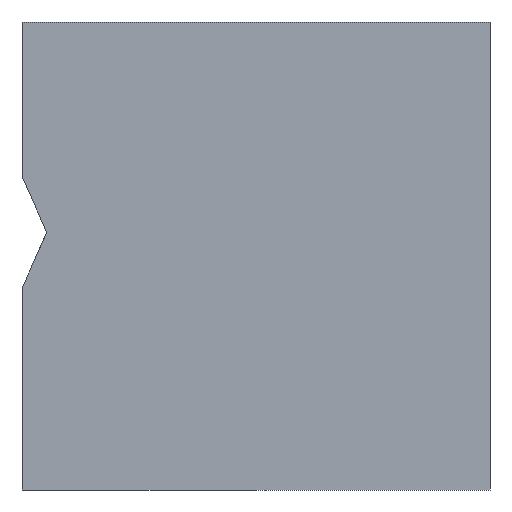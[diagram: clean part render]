
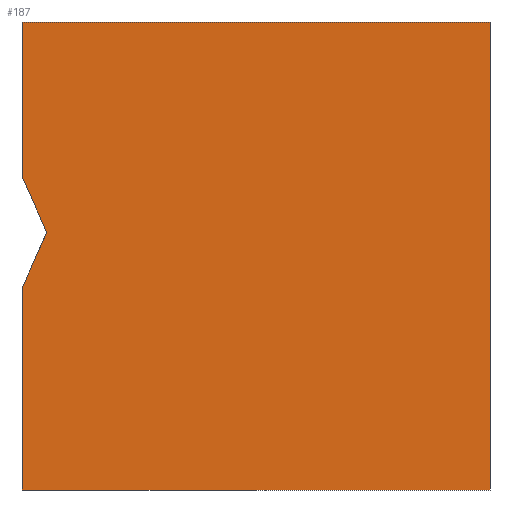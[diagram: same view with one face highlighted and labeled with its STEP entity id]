
A CAD part, left-side view. The second image highlights one B-rep face of the part: STEP entity #187.
In plain terms, the highlighted planar face has unit normal (-1, 0, 0).
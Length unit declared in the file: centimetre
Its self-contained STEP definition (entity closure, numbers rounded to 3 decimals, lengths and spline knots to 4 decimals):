
#30 = VECTOR ( 'NONE', #561, 100. ) ;
#32 = VECTOR ( 'NONE', #210, 100. ) ;
#38 = FACE_OUTER_BOUND ( 'NONE', #220, .T. ) ;
#46 = ORIENTED_EDGE ( 'NONE', *, *, #76, .T. ) ;
#52 = CARTESIAN_POINT ( 'NONE',  ( 0., 1000., 1000. ) ) ;
#67 = ORIENTED_EDGE ( 'NONE', *, *, #505, .F. ) ;
#74 = CARTESIAN_POINT ( 'NONE',  ( 0., 1000., 0. ) ) ;
#76 = EDGE_CURVE ( 'NONE', #444, #356, #207, .T. ) ;
#80 = CARTESIAN_POINT ( 'NONE',  ( 0., 1000., 1000. ) ) ;
#86 = DIRECTION ( 'NONE',  ( 1., 0., 0. ) ) ;
#113 = CARTESIAN_POINT ( 'NONE',  ( 0., 1000., 1000. ) ) ;
#117 = ORIENTED_EDGE ( 'NONE', *, *, #549, .T. ) ;
#122 = CARTESIAN_POINT ( 'NONE',  ( 0., 1000., 0. ) ) ;
#123 = DIRECTION ( 'NONE',  ( 0., 0.405, -0.914 ) ) ;
#134 = VECTOR ( 'NONE', #123, 100. ) ;
#142 = VERTEX_POINT ( 'NONE', #266 ) ;
#150 = LINE ( 'NONE', #523, #287 ) ;
#187 = ADVANCED_FACE ( 'NONE', ( #38 ), #495, .F. ) ;
#189 = CARTESIAN_POINT ( 'NONE',  ( 0., 1000., 669.9839 ) ) ;
#193 = VERTEX_POINT ( 'NONE', #358 ) ;
#207 = LINE ( 'NONE', #333, #32 ) ;
#210 = DIRECTION ( 'NONE',  ( 0., -0.405, -0.914 ) ) ;
#212 = DIRECTION ( 'NONE',  ( 0., 0., -1. ) ) ;
#220 = EDGE_LOOP ( 'NONE', ( #46, #494, #314, #117, #359, #67, #421 ) ) ;
#243 = CARTESIAN_POINT ( 'NONE',  ( 0., 1000., 1000. ) ) ;
#245 = LINE ( 'NONE', #243, #469 ) ;
#255 = VERTEX_POINT ( 'NONE', #452 ) ;
#260 = DIRECTION ( 'NONE',  ( 0., -1., 0. ) ) ;
#266 = CARTESIAN_POINT ( 'NONE',  ( 0., 0., 0. ) ) ;
#279 = DIRECTION ( 'NONE',  ( 0., 0., -1. ) ) ;
#287 = VECTOR ( 'NONE', #212, 100. ) ;
#305 = EDGE_CURVE ( 'NONE', #356, #255, #397, .T. ) ;
#314 = ORIENTED_EDGE ( 'NONE', *, *, #456, .T. ) ;
#322 = EDGE_CURVE ( 'NONE', #599, #444, #245, .T. ) ;
#325 = VECTOR ( 'NONE', #260, 100. ) ;
#333 = CARTESIAN_POINT ( 'NONE',  ( 0., 947.0247, 550.5397 ) ) ;
#338 = EDGE_CURVE ( 'NONE', #193, #142, #150, .T. ) ;
#347 = AXIS2_PLACEMENT_3D ( 'NONE', #80, #86, #449 ) ;
#356 = VERTEX_POINT ( 'NONE', #393 ) ;
#358 = CARTESIAN_POINT ( 'NONE',  ( 0., 0., 1000. ) ) ;
#359 = ORIENTED_EDGE ( 'NONE', *, *, #338, .F. ) ;
#377 = LINE ( 'NONE', #52, #30 ) ;
#393 = CARTESIAN_POINT ( 'NONE',  ( 0., 947.0247, 550.5397 ) ) ;
#397 = LINE ( 'NONE', #534, #134 ) ;
#401 = LINE ( 'NONE', #122, #325 ) ;
#421 = ORIENTED_EDGE ( 'NONE', *, *, #322, .T. ) ;
#426 = DIRECTION ( 'NONE',  ( 0., 0., -1. ) ) ;
#444 = VERTEX_POINT ( 'NONE', #189 ) ;
#449 = DIRECTION ( 'NONE',  ( 0., 0., -1. ) ) ;
#452 = CARTESIAN_POINT ( 'NONE',  ( 0., 1000., 431.0956 ) ) ;
#456 = EDGE_CURVE ( 'NONE', #255, #589, #519, .T. ) ;
#466 = CARTESIAN_POINT ( 'NONE',  ( 0., 1000., 1000. ) ) ;
#469 = VECTOR ( 'NONE', #426, 100. ) ;
#476 = VECTOR ( 'NONE', #279, 100. ) ;
#494 = ORIENTED_EDGE ( 'NONE', *, *, #305, .T. ) ;
#495 = PLANE ( 'NONE',  #347 ) ;
#505 = EDGE_CURVE ( 'NONE', #599, #193, #377, .T. ) ;
#519 = LINE ( 'NONE', #466, #476 ) ;
#523 = CARTESIAN_POINT ( 'NONE',  ( 0., 0., 1000. ) ) ;
#534 = CARTESIAN_POINT ( 'NONE',  ( 0., 1000., 431.0956 ) ) ;
#549 = EDGE_CURVE ( 'NONE', #589, #142, #401, .T. ) ;
#561 = DIRECTION ( 'NONE',  ( 0., -1., 0. ) ) ;
#589 = VERTEX_POINT ( 'NONE', #74 ) ;
#599 = VERTEX_POINT ( 'NONE', #113 ) ;
